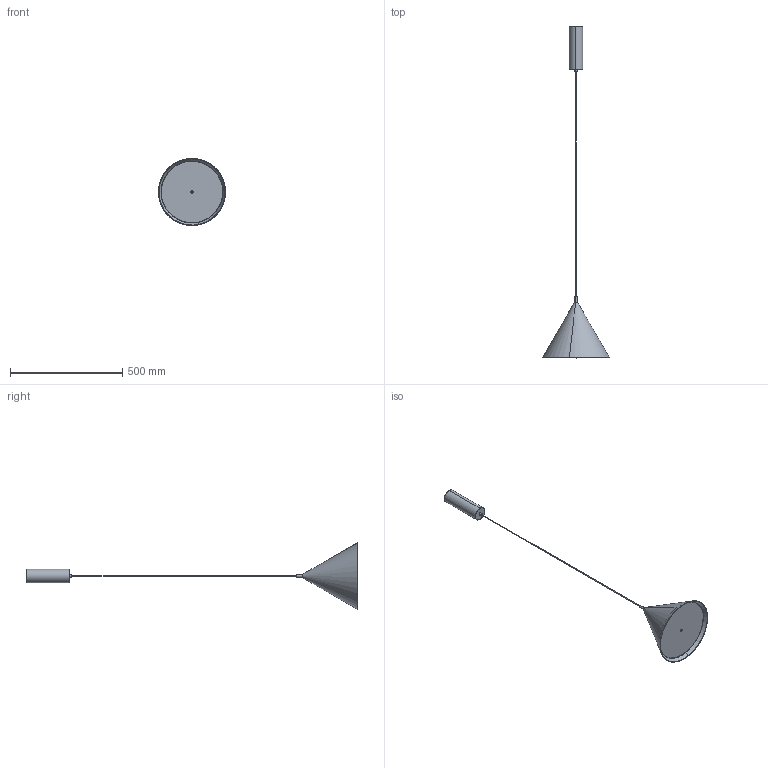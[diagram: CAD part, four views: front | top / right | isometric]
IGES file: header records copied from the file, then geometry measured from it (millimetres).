
Start section: SolidWorks IGES file using analytic representation for surfaces
Global section: file name: C:\Users\Agustin\Desktop\ENERO 2025\2D-3D\2D-3D TRAG_C1340\TRAG_C1340_30.IGS; native system: SolidWorks 2018; preprocessor: SolidWorks 2018; author: Agustin; date: 250117.172822; units: millimetre
Bounding box: 299.21 x 1480.95 x 299.26 mm (x, y, z)
Surface area: 453904.8 mm2 (no closed solid volume)
Topology: 0 solids, 0 shells, 35 faces, 784 edges, 784 vertices
Faces by surface type: bspline 19, revolution 16
